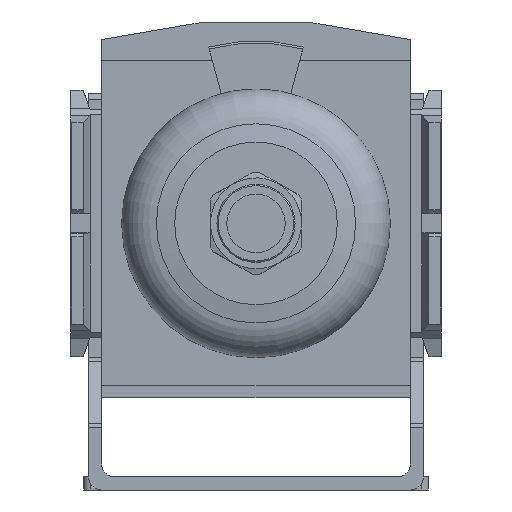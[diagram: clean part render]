
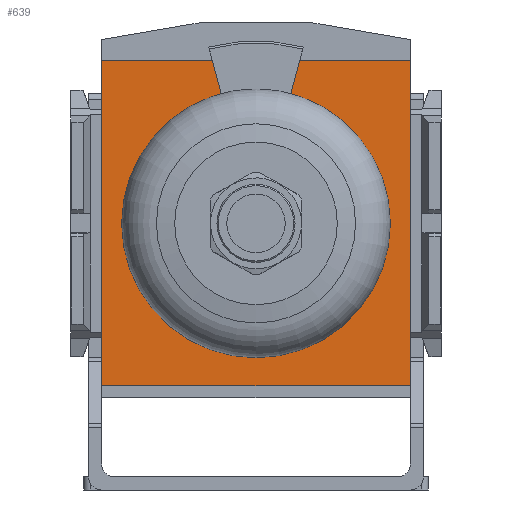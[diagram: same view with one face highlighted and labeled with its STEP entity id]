
A CAD part, front view. The second image highlights one B-rep face of the part: STEP entity #639.
In plain terms, the highlighted planar face has unit normal (0, -1, 0).
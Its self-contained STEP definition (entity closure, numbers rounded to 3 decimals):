
#639 = ADVANCED_FACE( '', ( #1397, #1398 ), #1399, .F. );
#1397 = FACE_BOUND( '', #2251, .T. );
#1398 = FACE_OUTER_BOUND( '', #2252, .T. );
#1399 = PLANE( '', #2253 );
#2251 = EDGE_LOOP( '', ( #4060 ) );
#2252 = EDGE_LOOP( '', ( #4061, #4062, #4063, #4064 ) );
#2253 = AXIS2_PLACEMENT_3D( '', #4065, #4066, #4067 );
#4060 = ORIENTED_EDGE( '', *, *, #5373, .F. );
#4061 = ORIENTED_EDGE( '', *, *, #5103, .F. );
#4062 = ORIENTED_EDGE( '', *, *, #5349, .F. );
#4063 = ORIENTED_EDGE( '', *, *, #5501, .F. );
#4064 = ORIENTED_EDGE( '', *, *, #5505, .F. );
#4065 = CARTESIAN_POINT( '', ( 0., -32., 0. ) );
#4066 = DIRECTION( '', ( 0., 1., 0. ) );
#4067 = DIRECTION( '', ( 0., 0., 1. ) );
#5103 = EDGE_CURVE( '', #6197, #6199, #6200, .T. );
#5349 = EDGE_CURVE( '', #6587, #6197, #6588, .T. );
#5373 = EDGE_CURVE( '', #6620, #6620, #6621, .F. );
#5501 = EDGE_CURVE( '', #6793, #6587, #6795, .T. );
#5505 = EDGE_CURVE( '', #6199, #6793, #6800, .T. );
#6197 = VERTEX_POINT( '', #7695 );
#6199 = VERTEX_POINT( '', #7698 );
#6200 = LINE( '', #7699, #7700 );
#6587 = VERTEX_POINT( '', #8271 );
#6588 = LINE( '', #8272, #8273 );
#6620 = VERTEX_POINT( '', #8313 );
#6621 = CIRCLE( '', #8314, 20.661 );
#6793 = VERTEX_POINT( '', #8553 );
#6795 = LINE( '', #8556, #8557 );
#6800 = LINE( '', #8564, #8565 );
#7695 = CARTESIAN_POINT( '', ( -23.75, -32., -25. ) );
#7698 = CARTESIAN_POINT( '', ( -23.75, -32., 25. ) );
#7699 = CARTESIAN_POINT( '', ( -23.75, -32., -25. ) );
#7700 = VECTOR( '', #9184, 1000. );
#8271 = CARTESIAN_POINT( '', ( 23.75, -32., -25. ) );
#8272 = CARTESIAN_POINT( '', ( 23.75, -32., -25. ) );
#8273 = VECTOR( '', #9466, 1000. );
#8313 = CARTESIAN_POINT( '', ( 0., -32., 20.661 ) );
#8314 = AXIS2_PLACEMENT_3D( '', #9496, #9497, #9498 );
#8553 = CARTESIAN_POINT( '', ( 23.75, -32., 25. ) );
#8556 = CARTESIAN_POINT( '', ( 23.75, -32., 25. ) );
#8557 = VECTOR( '', #9615, 1000. );
#8564 = CARTESIAN_POINT( '', ( -23.75, -32., 25. ) );
#8565 = VECTOR( '', #9618, 1000. );
#9184 = DIRECTION( '', ( 0., 0., 1. ) );
#9466 = DIRECTION( '', ( -1., 0., 0. ) );
#9496 = CARTESIAN_POINT( '', ( 0., -32., 0. ) );
#9497 = DIRECTION( '', ( 0., 1., 0. ) );
#9498 = DIRECTION( '', ( 0., 0., 1. ) );
#9615 = DIRECTION( '', ( 0., 0., -1. ) );
#9618 = DIRECTION( '', ( 1., 0., 0. ) );
